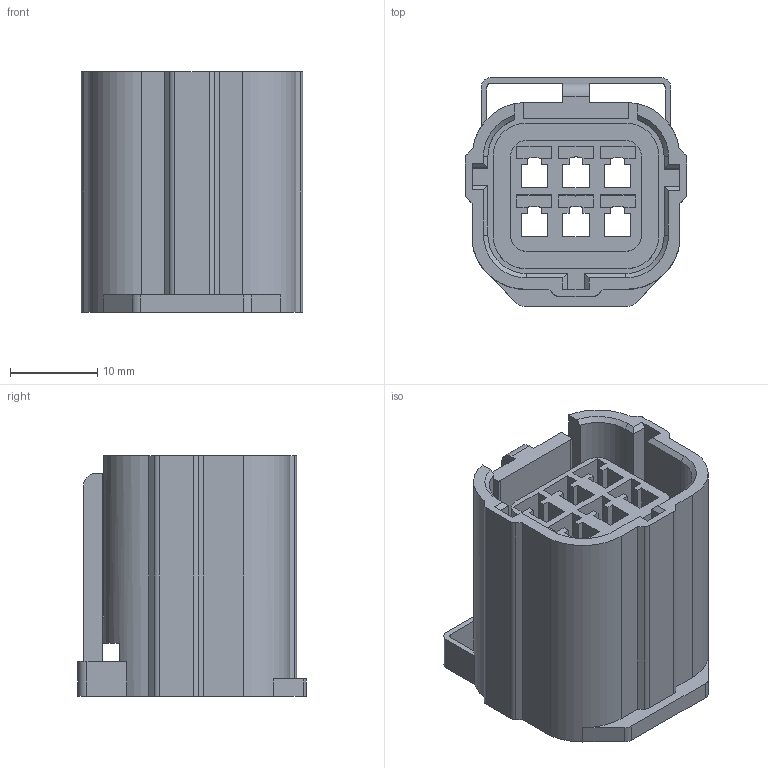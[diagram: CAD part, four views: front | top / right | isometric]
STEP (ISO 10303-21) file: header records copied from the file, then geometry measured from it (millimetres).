
FILE_DESCRIPTION((''),'2;1');
FILE_NAME('C-0344267-11-3','2007-12-23T',('workeradm'),('Tyco Electronics Corporation'),'PRO/ENGINEER BY PARAMETRIC TECHNOLOGY CORPORATION, 2005450','PRO/ENGINEER BY PARAMETRIC TECHNOLOGY CORPORATION, 2005450','');
FILE_SCHEMA(('CONFIG_CONTROL_DESIGN', 'GEOMETRIC_VALIDATION_PROPERTIES_MIM'));
Length unit declared in the file: millimetre
Products named in the file (1): C-0344267-11-3
Bounding box: 25.4 x 26.18 x 27.6 mm (x, y, z)
Volume: 7065.8 mm3; surface area: 9371.2 mm2
Topology: 1 solids, 1 shells, 274 faces, 764 edges, 494 vertices
Faces by surface type: plane 206, cylinder 64, cone 4
Entity records: 8879 total; most frequent: CARTESIAN_POINT 1543, ORIENTED_EDGE 1528, DIRECTION 1470, EDGE_CURVE 764, VECTOR 602, LINE 602, VERTEX_POINT 494, AXIS2_PLACEMENT_3D 434
